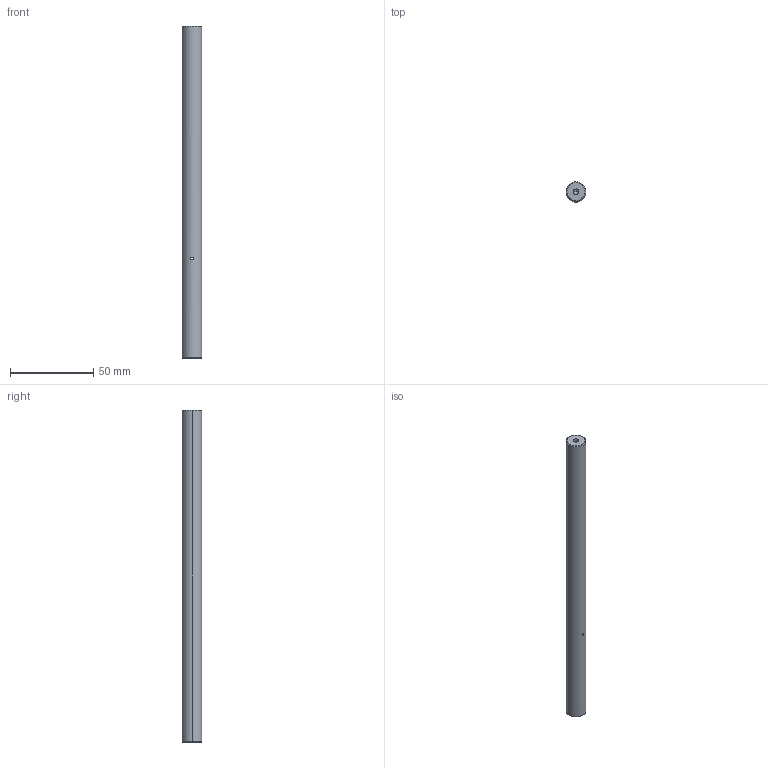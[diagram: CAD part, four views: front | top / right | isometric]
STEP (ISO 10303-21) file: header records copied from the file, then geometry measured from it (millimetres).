
FILE_DESCRIPTION (( 'STEP AP203' ), '1' );
FILE_NAME ('PHSP12-6C.step', '2019-05-09T09:08:23', ( '' ), ( '' ), 'SwSTEP 2.0', 'SolidWorks 2016', '' );
FILE_SCHEMA (( 'CONFIG_CONTROL_DESIGN' ));
Length unit declared in the file: millimetre
Products named in the file (1): PHSP12-6C
Bounding box: 12 x 12 x 200 mm (x, y, z)
Volume: 22410.7 mm3; surface area: 8008.3 mm2
Topology: 1 solids, 1 shells, 18 faces, 40 edges, 22 vertices
Faces by surface type: cylinder 8, cone 8, plane 2
Entity records: 597 total; most frequent: CARTESIAN_POINT 133, DIRECTION 86, ORIENTED_EDGE 72, EDGE_CURVE 36, AXIS2_PLACEMENT_3D 35, EDGE_LOOP 22, VERTEX_POINT 22, FACE_OUTER_BOUND 18
